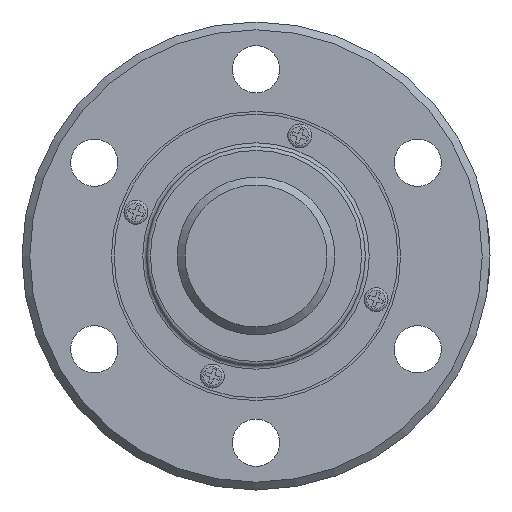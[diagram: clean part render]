
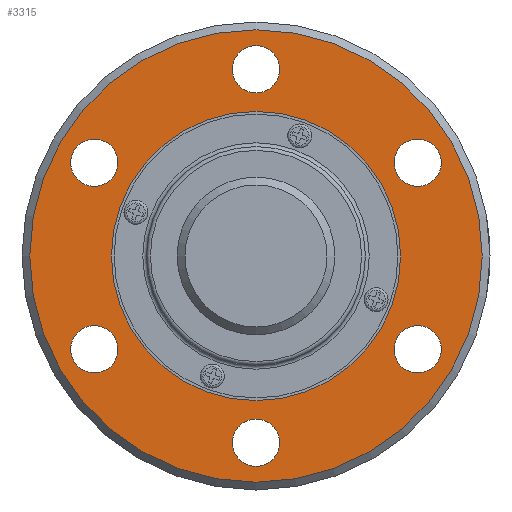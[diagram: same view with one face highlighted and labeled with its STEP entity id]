
A CAD part, left-side view. The second image highlights one B-rep face of the part: STEP entity #3315.
In plain terms, the highlighted planar face has unit normal (-1, 0, 0).
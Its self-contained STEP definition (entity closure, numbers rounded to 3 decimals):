
#700=PLANE('',#3580);
#876=ORIENTED_EDGE('',*,*,#1767,.T.);
#877=ORIENTED_EDGE('',*,*,#1768,.T.);
#878=ORIENTED_EDGE('',*,*,#1769,.T.);
#879=ORIENTED_EDGE('',*,*,#1770,.T.);
#880=ORIENTED_EDGE('',*,*,#1771,.T.);
#881=ORIENTED_EDGE('',*,*,#1772,.T.);
#882=ORIENTED_EDGE('',*,*,#1773,.T.);
#883=ORIENTED_EDGE('',*,*,#1766,.F.);
#1766=EDGE_CURVE('',#2223,#2223,#2550,.T.);
#1767=EDGE_CURVE('',#2224,#2224,#2551,.T.);
#1768=EDGE_CURVE('',#2225,#2225,#2552,.T.);
#1769=EDGE_CURVE('',#2226,#2226,#2553,.T.);
#1770=EDGE_CURVE('',#2227,#2227,#2554,.T.);
#1771=EDGE_CURVE('',#2228,#2228,#2555,.T.);
#1772=EDGE_CURVE('',#2229,#2229,#2556,.T.);
#1773=EDGE_CURVE('',#2230,#2230,#2557,.T.);
#2223=VERTEX_POINT('',#4981);
#2224=VERTEX_POINT('',#4984);
#2225=VERTEX_POINT('',#4986);
#2226=VERTEX_POINT('',#4988);
#2227=VERTEX_POINT('',#4990);
#2228=VERTEX_POINT('',#4992);
#2229=VERTEX_POINT('',#4994);
#2230=VERTEX_POINT('',#4996);
#2550=CIRCLE('',#3579,43.017);
#2551=CIRCLE('',#3581,27.5);
#2552=CIRCLE('',#3582,4.5);
#2553=CIRCLE('',#3583,4.5);
#2554=CIRCLE('',#3584,4.5);
#2555=CIRCLE('',#3585,4.5);
#2556=CIRCLE('',#3586,4.5);
#2557=CIRCLE('',#3587,4.5);
#2711=EDGE_LOOP('',(#876));
#2712=EDGE_LOOP('',(#877));
#2713=EDGE_LOOP('',(#878));
#2714=EDGE_LOOP('',(#879));
#2715=EDGE_LOOP('',(#880));
#2716=EDGE_LOOP('',(#881));
#2717=EDGE_LOOP('',(#882));
#2718=EDGE_LOOP('',(#883));
#3001=FACE_BOUND('',#2711,.T.);
#3002=FACE_BOUND('',#2712,.T.);
#3003=FACE_BOUND('',#2713,.T.);
#3004=FACE_BOUND('',#2714,.T.);
#3005=FACE_BOUND('',#2715,.T.);
#3006=FACE_BOUND('',#2716,.T.);
#3007=FACE_BOUND('',#2717,.T.);
#3008=FACE_BOUND('',#2718,.T.);
#3315=ADVANCED_FACE('',(#3001,#3002,#3003,#3004,#3005,#3006,#3007,#3008),
#700,.T.);
#3579=AXIS2_PLACEMENT_3D('',#4980,#3981,#3982);
#3580=AXIS2_PLACEMENT_3D('',#4982,#3983,#3984);
#3581=AXIS2_PLACEMENT_3D('',#4983,#3985,#3986);
#3582=AXIS2_PLACEMENT_3D('',#4985,#3987,#3988);
#3583=AXIS2_PLACEMENT_3D('',#4987,#3989,#3990);
#3584=AXIS2_PLACEMENT_3D('',#4989,#3991,#3992);
#3585=AXIS2_PLACEMENT_3D('',#4991,#3993,#3994);
#3586=AXIS2_PLACEMENT_3D('',#4993,#3995,#3996);
#3587=AXIS2_PLACEMENT_3D('',#4995,#3997,#3998);
#3981=DIRECTION('',(1.,0.,0.));
#3982=DIRECTION('',(0.,0.,-1.));
#3983=DIRECTION('',(-1.,0.,0.));
#3984=DIRECTION('',(0.,0.,1.));
#3985=DIRECTION('',(1.,0.,0.));
#3986=DIRECTION('',(0.,0.,-1.));
#3987=DIRECTION('',(1.,0.,0.));
#3988=DIRECTION('',(0.,0.,-1.));
#3989=DIRECTION('',(1.,0.,0.));
#3990=DIRECTION('',(0.,0.,-1.));
#3991=DIRECTION('',(1.,0.,0.));
#3992=DIRECTION('',(0.,0.,-1.));
#3993=DIRECTION('',(1.,0.,0.));
#3994=DIRECTION('',(0.,0.,-1.));
#3995=DIRECTION('',(1.,0.,0.));
#3996=DIRECTION('',(0.,0.,-1.));
#3997=DIRECTION('',(1.,0.,0.));
#3998=DIRECTION('',(0.,0.,-1.));
#4980=CARTESIAN_POINT('',(10.,0.,0.));
#4981=CARTESIAN_POINT('',(10.,0.,-43.017));
#4982=CARTESIAN_POINT('',(10.,43.017,0.));
#4983=CARTESIAN_POINT('',(10.,0.,0.));
#4984=CARTESIAN_POINT('',(10.,0.,-27.5));
#4985=CARTESIAN_POINT('',(10.,0.,35.5));
#4986=CARTESIAN_POINT('',(10.,0.,31.));
#4987=CARTESIAN_POINT('',(10.,-30.744,17.75));
#4988=CARTESIAN_POINT('',(10.,-30.744,13.25));
#4989=CARTESIAN_POINT('',(10.,-30.744,-17.75));
#4990=CARTESIAN_POINT('',(10.,-30.744,-22.25));
#4991=CARTESIAN_POINT('',(10.,0.,-35.5));
#4992=CARTESIAN_POINT('',(10.,0.,-40.));
#4993=CARTESIAN_POINT('',(10.,30.744,-17.75));
#4994=CARTESIAN_POINT('',(10.,30.744,-22.25));
#4995=CARTESIAN_POINT('',(10.,30.744,17.75));
#4996=CARTESIAN_POINT('',(10.,30.744,13.25));
